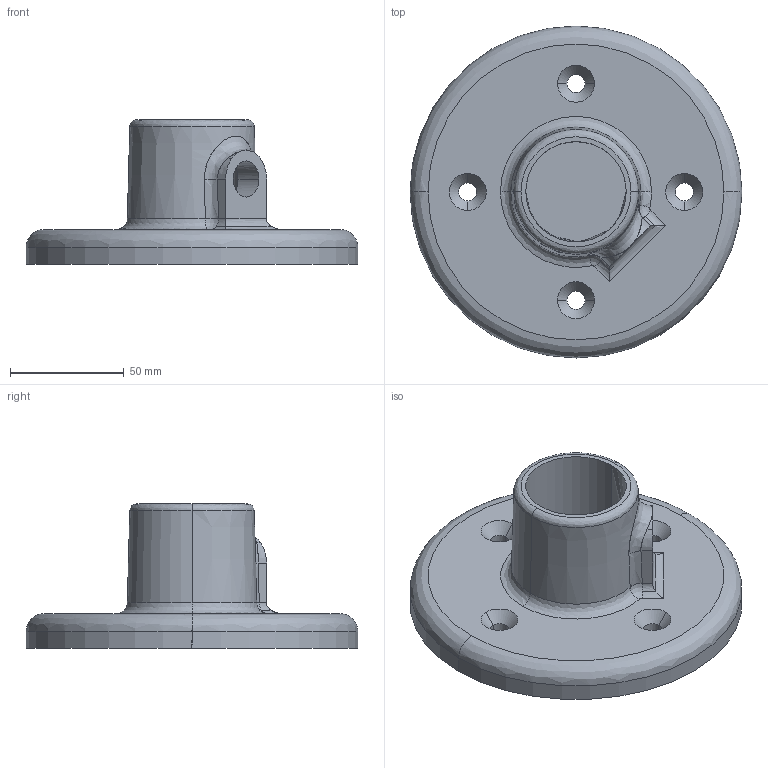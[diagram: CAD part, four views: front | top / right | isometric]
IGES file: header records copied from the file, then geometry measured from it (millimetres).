
Global section: file name: C:\Documents and Settings\Administrator\Desktop\Transfer Temp\60-7.igs; native system: AutoDesk Inventor R2.0 ; preprocessor: AutoDesk Inventor Iges Exporter R2.0; author: No Author specified; organization: No Organization specified; date: 20011231.175725; units: inch
Bounding box: 146.05 x 146.05 x 63.5 mm (x, y, z)
Surface area: 55888.9 mm2 (no closed solid volume)
Topology: 0 solids, 0 shells, 52 faces, 240 edges, 240 vertices
Faces by surface type: bspline 35, revolution 17
